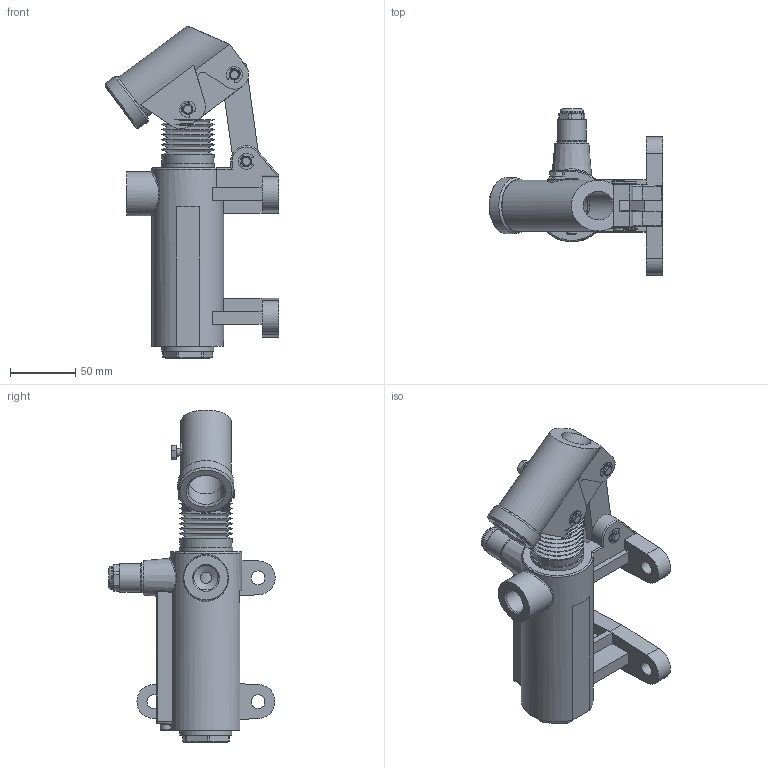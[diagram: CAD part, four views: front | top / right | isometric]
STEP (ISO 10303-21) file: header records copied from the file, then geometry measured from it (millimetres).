
FILE_DESCRIPTION(/* description */ ('Unknown'),/* implementation_level */ '2;1');
FILE_NAME(/* name */ 'HP70EVS',/* time_stamp */ '2024-11-27T15:32:08+01:00',/* author */ ('Unknown'),/* organization */ ('Unknown'),/* preprocessor_version */ 'ST-DEVELOPER v19.4',/* originating_system */ 'Solid Edge',/* authorisation */ 'Unknown');
FILE_SCHEMA (('PROCESS_PLANNING_SCHEMA','AUTOMOTIVE_DESIGN {1 0 10303 214 3 1 1}'));
Length unit declared in the file: millimetre
Products named in the file (1): HP70EVS
Bounding box: 133.48 x 127.61 x 254.79 mm (x, y, z)
Volume: 588949.6 mm3; surface area: 171334.5 mm2
Topology: 7 solids, 7 shells, 587 faces, 1503 edges, 960 vertices
Faces by surface type: plane 248, cylinder 204, cone 79, torus 30, bspline 23, sphere 3
Full cylindrical faces by diameter (mm): 1.7 x2, 4.917 x1, 5 x1, 5.1 x2, 5.994 x3, 6 x3, 7.792 x6, 8 x3, 8.092 x2, 8.1 x5, 8.4 x1, 8.5 x1, 8.6 x1, 8.7 x1, 9.99 x3, 10 x2, 10.5 x1, 10.6 x4, 11 x1, 14.8 x1, 14.95 x1, 15 x1, 15.2 x1, 15.3 x2, 15.8 x1, 16 x1, 17 x2, 17.8 x1, 18 x1, 18.631 x3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
Entity records: 22139 total; most frequent: CARTESIAN_POINT 5883, DIRECTION 2751, ORIENTED_EDGE 2428, EDGE_CURVE 1214, AXIS2_PLACEMENT_3D 1118, VERTEX_POINT 865, FACE_BOUND 865, EDGE_LOOP 862
